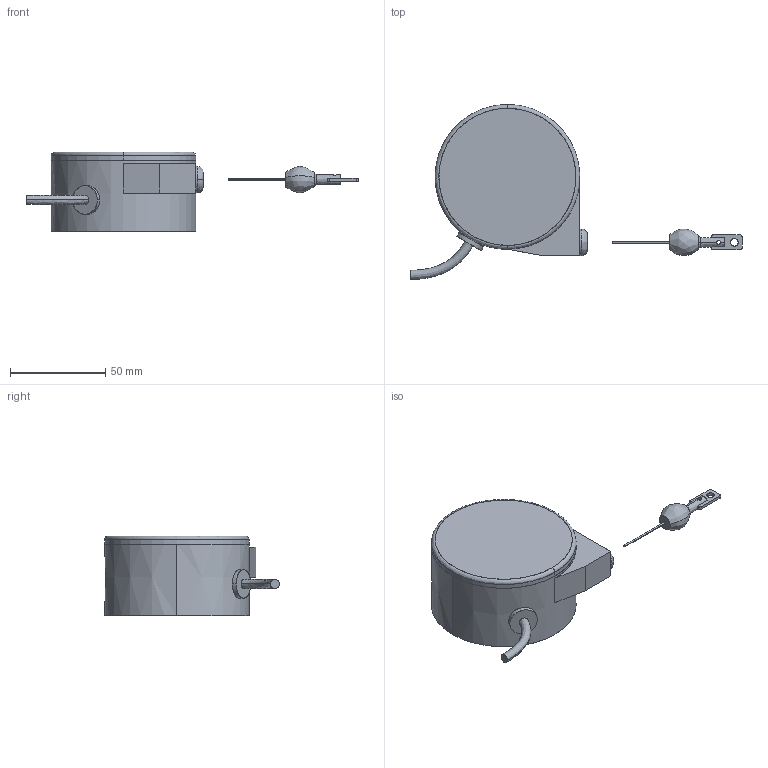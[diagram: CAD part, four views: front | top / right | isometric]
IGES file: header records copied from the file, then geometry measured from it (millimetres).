
Start section: SolidWorks IGES file using analytic representation for surfaces
Bounding box: 174.43 x 91.87 x 42 mm (x, y, z)
Surface area: 31848.7 mm2 (no closed solid volume)
Topology: 0 solids, 0 shells, 74 faces, 1476 edges, 1476 vertices
Faces by surface type: bspline 42, revolution 32
